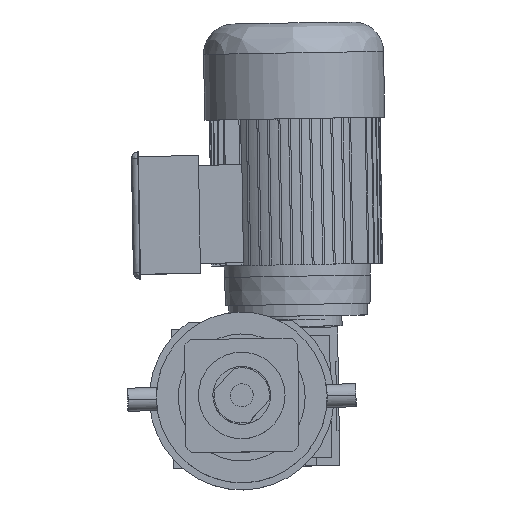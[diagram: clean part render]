
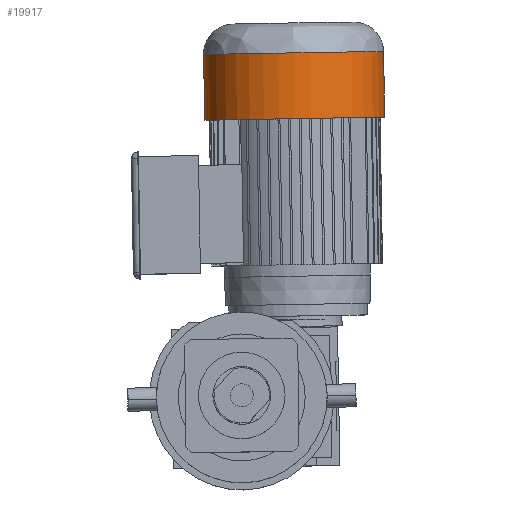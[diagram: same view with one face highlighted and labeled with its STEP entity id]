
A CAD part, top view. The second image highlights one B-rep face of the part: STEP entity #19917.
In plain terms, the highlighted cylindrical face has radius 78 mm (diameter 156 mm), a partial arc.
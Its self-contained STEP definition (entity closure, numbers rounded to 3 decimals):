
#279 = FACE_OUTER_BOUND ( 'NONE', #29823, .T. ) ;
#1078 = DIRECTION ( 'NONE',  ( 0., 0., -1. ) ) ;
#1238 = CARTESIAN_POINT ( 'NONE',  ( 0., -78., -209.5 ) ) ;
#2053 = CIRCLE ( 'NONE', #8764, 78. ) ;
#2164 = DIRECTION ( 'NONE',  ( 0., 0., 1. ) ) ;
#2932 = CARTESIAN_POINT ( 'NONE',  ( 0., 78., -209.5 ) ) ;
#3434 = ORIENTED_EDGE ( 'NONE', *, *, #15775, .T. ) ;
#4289 = CYLINDRICAL_SURFACE ( 'NONE', #21409, 78. ) ;
#4898 = EDGE_CURVE ( 'NONE', #6279, #12106, #14288, .T. ) ;
#6279 = VERTEX_POINT ( 'NONE', #29794 ) ;
#6621 = CARTESIAN_POINT ( 'NONE',  ( 0., 78., -183.5 ) ) ;
#6630 = VECTOR ( 'NONE', #23109, 1000. ) ;
#7402 = LINE ( 'NONE', #1238, #37208 ) ;
#7593 = AXIS2_PLACEMENT_3D ( 'NONE', #19439, #2164, #22385 ) ;
#8764 = AXIS2_PLACEMENT_3D ( 'NONE', #18360, #1078, #21305 ) ;
#9226 = ORIENTED_EDGE ( 'NONE', *, *, #4898, .F. ) ;
#10213 = ORIENTED_EDGE ( 'NONE', *, *, #35207, .T. ) ;
#12106 = VERTEX_POINT ( 'NONE', #6621 ) ;
#14288 = LINE ( 'NONE', #2932, #6630 ) ;
#15339 = CARTESIAN_POINT ( 'NONE',  ( 0., -78., -126.5 ) ) ;
#15775 = EDGE_CURVE ( 'NONE', #23664, #23556, #7402, .T. ) ;
#18247 = ORIENTED_EDGE ( 'NONE', *, *, #36194, .T. ) ;
#18360 = CARTESIAN_POINT ( 'NONE',  ( 0., 0., -126.5 ) ) ;
#19439 = CARTESIAN_POINT ( 'NONE',  ( 0., 0., -183.5 ) ) ;
#19917 = ADVANCED_FACE ( 'NONE', ( #279 ), #4289, .T. ) ;
#20571 = CARTESIAN_POINT ( 'NONE',  ( 0., -78., -183.5 ) ) ;
#21305 = DIRECTION ( 'NONE',  ( 0., 1., 0. ) ) ;
#21409 = AXIS2_PLACEMENT_3D ( 'NONE', #31781, #34701, #29054 ) ;
#22300 = CIRCLE ( 'NONE', #7593, 78. ) ;
#22385 = DIRECTION ( 'NONE',  ( 0., 1., 0. ) ) ;
#23109 = DIRECTION ( 'NONE',  ( 0., 0., -1. ) ) ;
#23556 = VERTEX_POINT ( 'NONE', #20571 ) ;
#23664 = VERTEX_POINT ( 'NONE', #15339 ) ;
#27253 = DIRECTION ( 'NONE',  ( 0., 0., -1. ) ) ;
#29054 = DIRECTION ( 'NONE',  ( 0., 1., 0. ) ) ;
#29794 = CARTESIAN_POINT ( 'NONE',  ( 0., 78., -126.5 ) ) ;
#29823 = EDGE_LOOP ( 'NONE', ( #10213, #3434, #18247, #9226 ) ) ;
#31781 = CARTESIAN_POINT ( 'NONE',  ( 0., 0., -209.5 ) ) ;
#34701 = DIRECTION ( 'NONE',  ( 0., 0., -1. ) ) ;
#35207 = EDGE_CURVE ( 'NONE', #6279, #23664, #2053, .T. ) ;
#36194 = EDGE_CURVE ( 'NONE', #23556, #12106, #22300, .T. ) ;
#37208 = VECTOR ( 'NONE', #27253, 1000. ) ;
